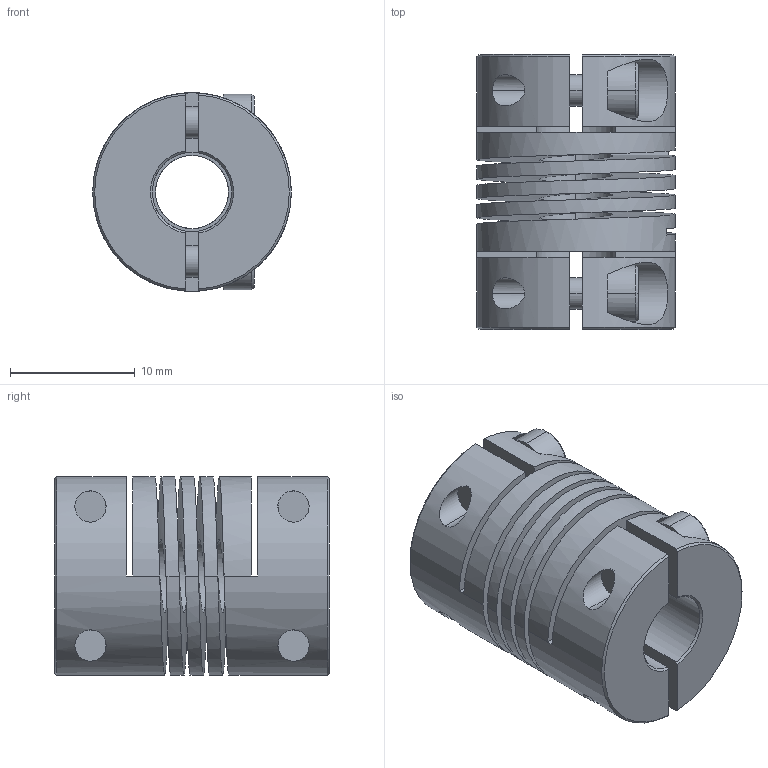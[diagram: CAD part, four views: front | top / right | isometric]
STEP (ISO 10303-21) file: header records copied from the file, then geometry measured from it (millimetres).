
FILE_DESCRIPTION((''),'2;1');
FILE_NAME('821_16','2006-12-13T',('garym'),(''),'PRO/ENGINEER BY PARAMETRIC TECHNOLOGY CORPORATION, 2006010','PRO/ENGINEER BY PARAMETRIC TECHNOLOGY CORPORATION, 2006010','');
FILE_SCHEMA(('CONFIG_CONTROL_DESIGN'));
Length unit declared in the file: millimetre
Products named in the file (1): 821_16
Bounding box: 15.9 x 22 x 15.9 mm (x, y, z)
Volume: 3064.4 mm3; surface area: 3938.4 mm2
Topology: 1 solids, 1 shells, 143 faces, 369 edges, 238 vertices
Faces by surface type: plane 72, cylinder 51, cone 16, bspline 4
Entity records: 5721 total; most frequent: CARTESIAN_POINT 2230, ORIENTED_EDGE 738, DIRECTION 677, EDGE_CURVE 369, AXIS2_PLACEMENT_3D 239, VERTEX_POINT 238, VECTOR 199, LINE 199
